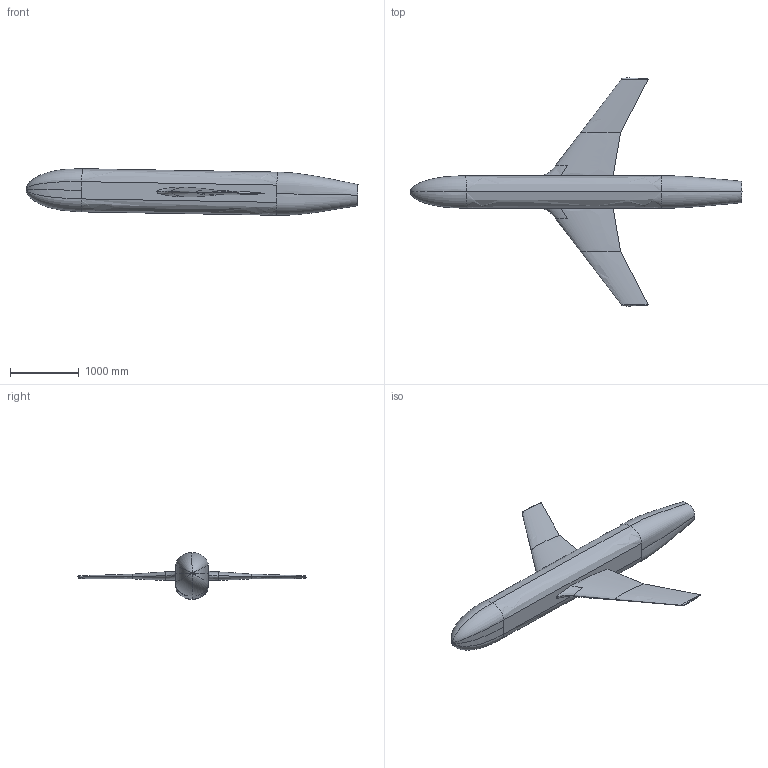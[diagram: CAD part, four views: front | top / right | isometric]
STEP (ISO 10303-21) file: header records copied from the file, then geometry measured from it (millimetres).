
FILE_DESCRIPTION(/* description */ (''),/* implementation_level */ '2;1');
FILE_NAME(/* name */ 'jfm_0015_based_wHorn_harrison_fuselage_2017_02_06_fullspan-1deg_in_tunnel_mod.stp',/* time_stamp */ '2022-08-22T14:20:15-04:00',/* author */ (''),/* organization */ (''),/* preprocessor_version */ 'ST-DEVELOPER v16',/* originating_system */ 'SIEMENS PLM Software NX 10.0',/* authorisation */ '');
FILE_SCHEMA (('AP203_CONFIGURATION_CONTROLLED_3D_DESIGN_OF_MECHANICAL_PARTS_AND_ASSEMBLIES_MIM_LF { 1 0 10303 403 2 1 2}'));
Products named in the file (1): sbry4E4082DFvl3b
Bounding box: 4841.18 x 3325.86 x 679.27 mm (x, y, z)
Volume: 1196545951.6 mm3; surface area: 11766173 mm2
Topology: 1 solids, 1 shells, 41 faces, 96 edges, 51 vertices
Faces by surface type: bspline 24, plane 9, extrusion 8
Entity records: 35493 total; most frequent: CARTESIAN_POINT 34780, ORIENTED_EDGE 176, EDGE_CURVE 88, B_SPLINE_CURVE_WITH_KNOTS 88, VERTEX_POINT 51, EDGE_LOOP 43, ADVANCED_FACE 41, FACE_OUTER_BOUND 39
